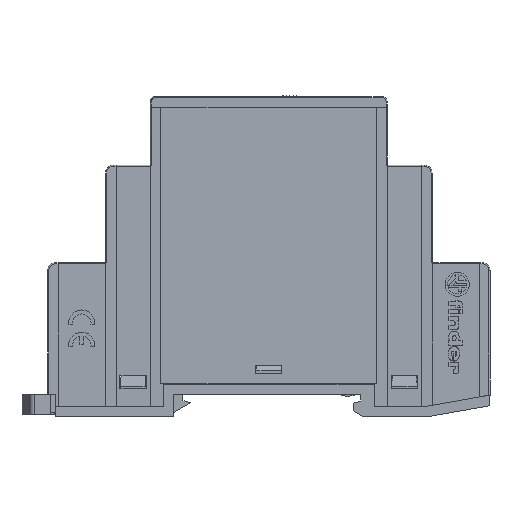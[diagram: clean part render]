
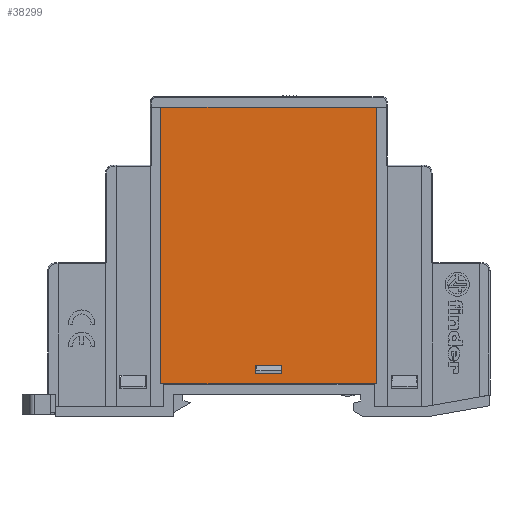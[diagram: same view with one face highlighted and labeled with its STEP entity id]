
A CAD part, left-side view. The second image highlights one B-rep face of the part: STEP entity #38299.
In plain terms, the highlighted planar face has unit normal (-1, 0, 0).
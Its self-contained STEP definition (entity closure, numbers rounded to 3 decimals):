
#4371=LINE('',#63501,#9290);
#4403=LINE('',#63571,#9322);
#4531=LINE('',#63891,#9450);
#4532=LINE('',#63893,#9451);
#4533=LINE('',#63896,#9452);
#4534=LINE('',#63898,#9453);
#4535=LINE('',#63900,#9454);
#4536=LINE('',#63901,#9455);
#9290=VECTOR('',#49891,1000.);
#9322=VECTOR('',#49935,1000.);
#9450=VECTOR('',#50177,1000.);
#9451=VECTOR('',#50180,1000.);
#9452=VECTOR('',#50181,1000.);
#9453=VECTOR('',#50182,1000.);
#9454=VECTOR('',#50183,1000.);
#9455=VECTOR('',#50184,1000.);
#11548=PLANE('',#41287);
#20817=ORIENTED_EDGE('',*,*,#27682,.F.);
#20818=ORIENTED_EDGE('',*,*,#27683,.F.);
#20819=ORIENTED_EDGE('',*,*,#27684,.F.);
#20820=ORIENTED_EDGE('',*,*,#27685,.F.);
#20821=ORIENTED_EDGE('',*,*,#27495,.F.);
#20822=ORIENTED_EDGE('',*,*,#27681,.F.);
#20823=ORIENTED_EDGE('',*,*,#27530,.F.);
#20824=ORIENTED_EDGE('',*,*,#27686,.F.);
#27495=EDGE_CURVE('',#31888,#31889,#4371,.T.);
#27530=EDGE_CURVE('',#31920,#31921,#4403,.T.);
#27681=EDGE_CURVE('',#31921,#31888,#4531,.T.);
#27682=EDGE_CURVE('',#32034,#32035,#4532,.T.);
#27683=EDGE_CURVE('',#32036,#32034,#4533,.T.);
#27684=EDGE_CURVE('',#32037,#32036,#4534,.T.);
#27685=EDGE_CURVE('',#32035,#32037,#4535,.T.);
#27686=EDGE_CURVE('',#31889,#31920,#4536,.T.);
#31888=VERTEX_POINT('',#63500);
#31889=VERTEX_POINT('',#63502);
#31920=VERTEX_POINT('',#63570);
#31921=VERTEX_POINT('',#63572);
#32034=VERTEX_POINT('',#63894);
#32035=VERTEX_POINT('',#63895);
#32036=VERTEX_POINT('',#63897);
#32037=VERTEX_POINT('',#63899);
#34332=EDGE_LOOP('',(#20817,#20818,#20819,#20820));
#34333=EDGE_LOOP('',(#20821,#20822,#20823,#20824));
#36337=FACE_BOUND('',#34332,.T.);
#36338=FACE_BOUND('',#34333,.T.);
#38299=ADVANCED_FACE('',(#36337,#36338),#11548,.T.);
#41287=AXIS2_PLACEMENT_3D('',#63892,#50178,#50179);
#49891=DIRECTION('',(0.,-1.,0.));
#49935=DIRECTION('',(0.,1.,0.));
#50177=DIRECTION('',(0.,0.,1.));
#50178=DIRECTION('',(-1.,0.,0.));
#50179=DIRECTION('',(0.,0.,1.));
#50180=DIRECTION('',(0.,0.,-1.));
#50181=DIRECTION('',(0.,1.,0.));
#50182=DIRECTION('',(0.,0.,1.));
#50183=DIRECTION('',(0.,-1.,0.));
#50184=DIRECTION('',(0.,0.,-1.));
#63500=CARTESIAN_POINT('',(-2.053,73.274,31.));
#63501=CARTESIAN_POINT('',(-2.053,73.274,31.));
#63502=CARTESIAN_POINT('',(-2.053,32.274,31.));
#63570=CARTESIAN_POINT('',(-2.053,32.274,-21.5));
#63571=CARTESIAN_POINT('',(-2.053,55.274,-21.5));
#63572=CARTESIAN_POINT('',(-2.053,73.274,-21.5));
#63891=CARTESIAN_POINT('',(-2.053,73.274,-21.5));
#63892=CARTESIAN_POINT('',(-2.053,10.773,-27.801));
#63893=CARTESIAN_POINT('',(-2.053,55.274,-27.801));
#63894=CARTESIAN_POINT('',(-2.053,55.274,-18.));
#63895=CARTESIAN_POINT('',(-2.053,55.274,-19.5));
#63896=CARTESIAN_POINT('',(-2.053,10.773,-18.));
#63897=CARTESIAN_POINT('',(-2.053,50.274,-18.));
#63898=CARTESIAN_POINT('',(-2.053,50.274,-27.801));
#63899=CARTESIAN_POINT('',(-2.053,50.274,-19.5));
#63900=CARTESIAN_POINT('',(-2.053,10.773,-19.5));
#63901=CARTESIAN_POINT('',(-2.053,32.274,31.));
